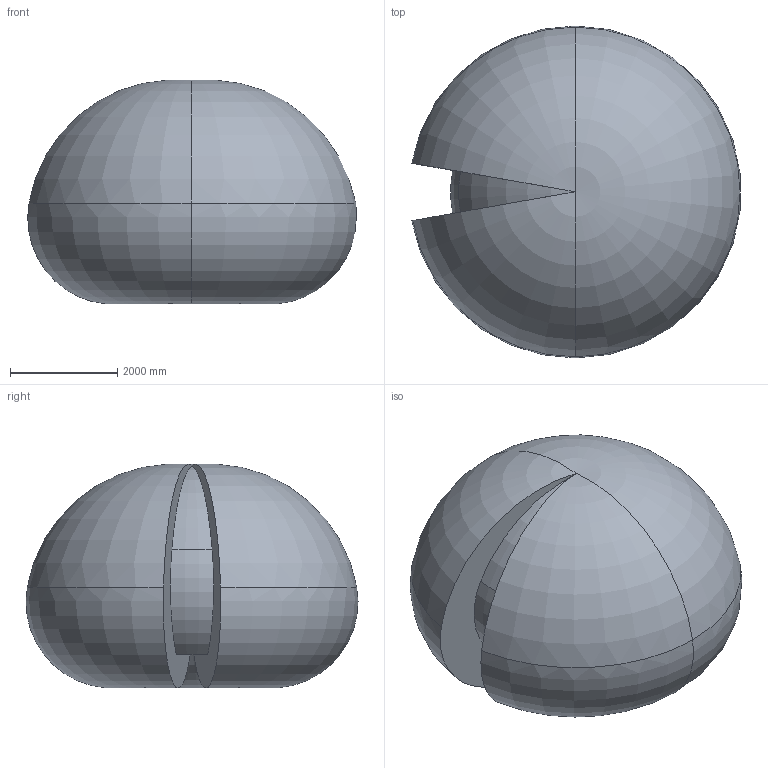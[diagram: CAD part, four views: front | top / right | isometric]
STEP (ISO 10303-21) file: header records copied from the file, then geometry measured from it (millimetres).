
FILE_DESCRIPTION (( 'STEP AP214' ), '1' );
FILE_NAME ('IRB6730-LID_190kg-310_OC_00_Working-space.step', '2026-05-26T09:17:54', ( '' ), ( '' ), 'SwSTEP 2.0', 'SolidWorks 2024', '' );
FILE_SCHEMA (( 'AUTOMOTIVE_DESIGN' ));
Length unit declared in the file: millimetre
Products named in the file (1): IRB6730-LID_190kg-310_OC_00_Working-space
Bounding box: 6130.35 x 6194.37 x 4169.03 mm (x, y, z)
Volume: 80729339181.3 mm3; surface area: 128113131 mm2
Topology: 1 solids, 1 shells, 18 faces, 44 edges, 20 vertices
Faces by surface type: torus 16, plane 2
Entity records: 503 total; most frequent: DIRECTION 110, CARTESIAN_POINT 75, ORIENTED_EDGE 72, AXIS2_PLACEMENT_3D 55, EDGE_CURVE 36, CIRCLE 36, VERTEX_POINT 20, EDGE_LOOP 18
